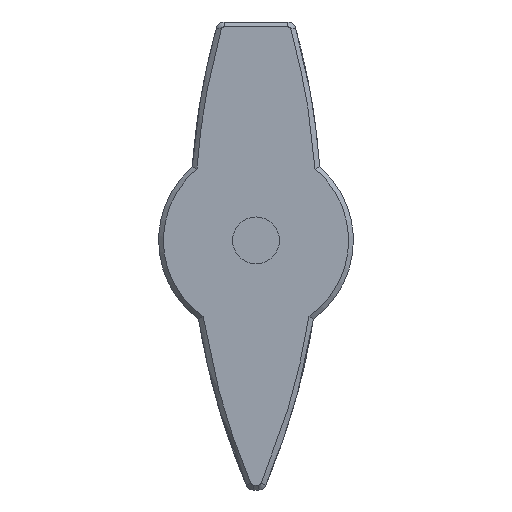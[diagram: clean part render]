
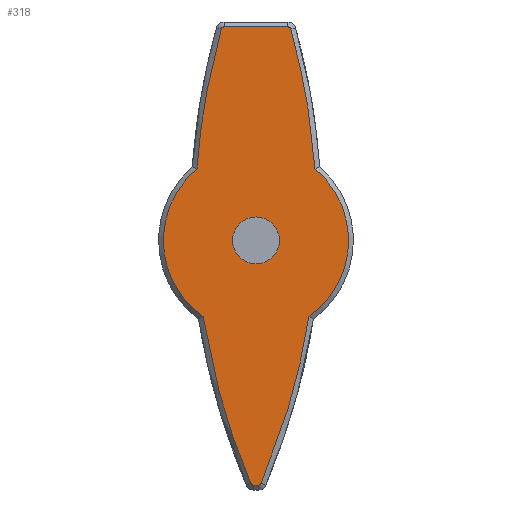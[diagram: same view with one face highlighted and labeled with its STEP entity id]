
A CAD part, front view. The second image highlights one B-rep face of the part: STEP entity #318.
In plain terms, the highlighted planar face has unit normal (0, -1, 0).
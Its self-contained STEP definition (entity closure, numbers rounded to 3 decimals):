
#3 = DIRECTION ( 'NONE',  ( 0., -1., 0. ) ) ;
#63 = DIRECTION ( 'NONE',  ( 0., -1., 0. ) ) ;
#100 = CIRCLE ( 'NONE', #1107, 0.303 ) ;
#119 = CARTESIAN_POINT ( 'NONE',  ( -6.58, 2.327, -1.582 ) ) ;
#155 = AXIS2_PLACEMENT_3D ( 'NONE', #349, #1712, #1438 ) ;
#165 = DIRECTION ( 'NONE',  ( 1., 0., 0. ) ) ;
#214 = EDGE_CURVE ( 'NONE', #276, #944, #1014, .T. ) ;
#229 = CARTESIAN_POINT ( 'NONE',  ( -4.539, 2.327, -13.285 ) ) ;
#244 = DIRECTION ( 'NONE',  ( 0., 0., 1. ) ) ;
#251 = LINE ( 'NONE', #523, #1416 ) ;
#266 = DIRECTION ( 'NONE',  ( 0., 1., 0. ) ) ;
#269 = EDGE_LOOP ( 'NONE', ( #683 ) ) ;
#276 = VERTEX_POINT ( 'NONE', #1733 ) ;
#283 = ORIENTED_EDGE ( 'NONE', *, *, #1122, .T. ) ;
#316 = CARTESIAN_POINT ( 'NONE',  ( 3.57, 2.327, 21.94 ) ) ;
#318 = ADVANCED_FACE ( 'NONE', ( #1541, #705 ), #1247, .F. ) ;
#320 = CIRCLE ( 'NONE', #867, 0.303 ) ;
#324 = DIRECTION ( 'NONE',  ( 0., 0., 1. ) ) ;
#336 = CIRCLE ( 'NONE', #563, 9.5 ) ;
#339 = ORIENTED_EDGE ( 'NONE', *, *, #560, .T. ) ;
#349 = CARTESIAN_POINT ( 'NONE',  ( 0., 2.327, 0.259 ) ) ;
#387 = CARTESIAN_POINT ( 'NONE',  ( -6.58, 2.327, -24.844 ) ) ;
#429 = ORIENTED_EDGE ( 'NONE', *, *, #616, .T. ) ;
#449 = VERTEX_POINT ( 'NONE', #1126 ) ;
#466 = CARTESIAN_POINT ( 'NONE',  ( 0.529, 2.327, -24.658 ) ) ;
#471 = CARTESIAN_POINT ( 'NONE',  ( -0.25, 2.327, -24.541 ) ) ;
#478 = EDGE_CURVE ( 'NONE', #638, #1252, #1756, .T. ) ;
#512 = CARTESIAN_POINT ( 'NONE',  ( -6.058, 2.327, 7.577 ) ) ;
#516 = B_SPLINE_CURVE_WITH_KNOTS ( 'NONE', 3,
 ( #892, #229, #610, #795 ),
 .UNSPECIFIED., .F., .F.,
 ( 4, 4 ),
 ( 0., 1. ),
 .UNSPECIFIED. ) ;
#523 = CARTESIAN_POINT ( 'NONE',  ( -3.277, 2.327, 22.162 ) ) ;
#524 = VERTEX_POINT ( 'NONE', #1282 ) ;
#543 = AXIS2_PLACEMENT_3D ( 'NONE', #835, #3, #559 ) ;
#554 = ORIENTED_EDGE ( 'NONE', *, *, #1526, .T. ) ;
#559 = DIRECTION ( 'NONE',  ( 0., 0., -1. ) ) ;
#560 = EDGE_CURVE ( 'NONE', #1316, #1661, #516, .T. ) ;
#563 = AXIS2_PLACEMENT_3D ( 'NONE', #1182, #651, #1757 ) ;
#591 = CARTESIAN_POINT ( 'NONE',  ( 6.058, 2.327, 7.577 ) ) ;
#610 = CARTESIAN_POINT ( 'NONE',  ( -2.906, 2.327, -18.992 ) ) ;
#616 = EDGE_CURVE ( 'NONE', #1661, #524, #1258, .T. ) ;
#638 = VERTEX_POINT ( 'NONE', #776 ) ;
#651 = DIRECTION ( 'NONE',  ( 0., -1., 0. ) ) ;
#653 = DIRECTION ( 'NONE',  ( 0., -1., 0. ) ) ;
#683 = ORIENTED_EDGE ( 'NONE', *, *, #1112, .F. ) ;
#705 = FACE_BOUND ( 'NONE', #269, .T. ) ;
#714 = EDGE_CURVE ( 'NONE', #524, #1461, #937, .T. ) ;
#720 = VERTEX_POINT ( 'NONE', #1209 ) ;
#721 = CARTESIAN_POINT ( 'NONE',  ( 5.725, 2.327, 12.336 ) ) ;
#728 = DIRECTION ( 'NONE',  ( 0., 0., 1. ) ) ;
#770 = CARTESIAN_POINT ( 'NONE',  ( -4.896, 2.327, 17.123 ) ) ;
#776 = CARTESIAN_POINT ( 'NONE',  ( 6.058, 2.327, 7.577 ) ) ;
#795 = CARTESIAN_POINT ( 'NONE',  ( -0.529, 2.327, -24.658 ) ) ;
#825 = ORIENTED_EDGE ( 'NONE', *, *, #1281, .T. ) ;
#826 = EDGE_CURVE ( 'NONE', #1461, #720, #320, .T. ) ;
#835 = CARTESIAN_POINT ( 'NONE',  ( 0., 2.327, 0.259 ) ) ;
#852 = ORIENTED_EDGE ( 'NONE', *, *, #1736, .T. ) ;
#864 = CIRCLE ( 'NONE', #543, 2.4 ) ;
#867 = AXIS2_PLACEMENT_3D ( 'NONE', #1308, #1279, #728 ) ;
#892 = CARTESIAN_POINT ( 'NONE',  ( -5.428, 2.327, -7.537 ) ) ;
#937 = LINE ( 'NONE', #387, #1199 ) ;
#944 = VERTEX_POINT ( 'NONE', #1215 ) ;
#949 = AXIS2_PLACEMENT_3D ( 'NONE', #119, #266, #1230 ) ;
#970 = VERTEX_POINT ( 'NONE', #1177 ) ;
#977 = ORIENTED_EDGE ( 'NONE', *, *, #1330, .T. ) ;
#983 = EDGE_LOOP ( 'NONE', ( #852, #1735, #554, #339, #429, #1137, #1621, #283, #825, #1518, #977, #1442 ) ) ;
#1009 = CARTESIAN_POINT ( 'NONE',  ( 5.428, 2.327, -7.537 ) ) ;
#1011 = EDGE_CURVE ( 'NONE', #1328, #1225, #251, .T. ) ;
#1014 = B_SPLINE_CURVE_WITH_KNOTS ( 'NONE', 3,
 ( #1768, #770, #1061, #512 ),
 .UNSPECIFIED., .F., .F.,
 ( 4, 4 ),
 ( 0., 1. ),
 .UNSPECIFIED. ) ;
#1019 = CARTESIAN_POINT ( 'NONE',  ( 4.539, 2.327, -13.285 ) ) ;
#1061 = CARTESIAN_POINT ( 'NONE',  ( -5.726, 2.327, 12.336 ) ) ;
#1074 = CIRCLE ( 'NONE', #1539, 0.303 ) ;
#1078 = DIRECTION ( 'NONE',  ( -1., 0., 0. ) ) ;
#1107 = AXIS2_PLACEMENT_3D ( 'NONE', #1634, #653, #1195 ) ;
#1112 = EDGE_CURVE ( 'NONE', #449, #449, #864, .T. ) ;
#1122 = EDGE_CURVE ( 'NONE', #720, #970, #1454, .T. ) ;
#1126 = CARTESIAN_POINT ( 'NONE',  ( 0., 2.327, -2.141 ) ) ;
#1137 = ORIENTED_EDGE ( 'NONE', *, *, #714, .T. ) ;
#1138 = CARTESIAN_POINT ( 'NONE',  ( 4.896, 2.327, 17.123 ) ) ;
#1177 = CARTESIAN_POINT ( 'NONE',  ( 5.428, 2.327, -7.537 ) ) ;
#1182 = CARTESIAN_POINT ( 'NONE',  ( 0., 2.327, 0.259 ) ) ;
#1185 = CARTESIAN_POINT ( 'NONE',  ( 3.277, 2.327, 22.162 ) ) ;
#1195 = DIRECTION ( 'NONE',  ( 0., 0., 1. ) ) ;
#1199 = VECTOR ( 'NONE', #165, 1000. ) ;
#1209 = CARTESIAN_POINT ( 'NONE',  ( 0.529, 2.327, -24.658 ) ) ;
#1215 = CARTESIAN_POINT ( 'NONE',  ( -6.058, 2.327, 7.577 ) ) ;
#1225 = VERTEX_POINT ( 'NONE', #1409 ) ;
#1230 = DIRECTION ( 'NONE',  ( 0., 0., 1. ) ) ;
#1247 = PLANE ( 'NONE',  #949 ) ;
#1252 = VERTEX_POINT ( 'NONE', #316 ) ;
#1258 = CIRCLE ( 'NONE', #1763, 0.303 ) ;
#1279 = DIRECTION ( 'NONE',  ( 0., -1., 0. ) ) ;
#1281 = EDGE_CURVE ( 'NONE', #970, #638, #1337, .T. ) ;
#1282 = CARTESIAN_POINT ( 'NONE',  ( -0.25, 2.327, -24.844 ) ) ;
#1308 = CARTESIAN_POINT ( 'NONE',  ( 0.25, 2.327, -24.541 ) ) ;
#1316 = VERTEX_POINT ( 'NONE', #1465 ) ;
#1328 = VERTEX_POINT ( 'NONE', #1185 ) ;
#1330 = EDGE_CURVE ( 'NONE', #1252, #1328, #100, .T. ) ;
#1337 = CIRCLE ( 'NONE', #155, 9.5 ) ;
#1387 = CARTESIAN_POINT ( 'NONE',  ( -0.529, 2.327, -24.658 ) ) ;
#1409 = CARTESIAN_POINT ( 'NONE',  ( -3.277, 2.327, 22.162 ) ) ;
#1416 = VECTOR ( 'NONE', #1078, 1000. ) ;
#1438 = DIRECTION ( 'NONE',  ( 0., 0., 1. ) ) ;
#1442 = ORIENTED_EDGE ( 'NONE', *, *, #1011, .T. ) ;
#1454 = B_SPLINE_CURVE_WITH_KNOTS ( 'NONE', 3,
 ( #466, #1693, #1019, #1009 ),
 .UNSPECIFIED., .F., .F.,
 ( 4, 4 ),
 ( 0., 1. ),
 .UNSPECIFIED. ) ;
#1461 = VERTEX_POINT ( 'NONE', #1566 ) ;
#1465 = CARTESIAN_POINT ( 'NONE',  ( -5.428, 2.327, -7.537 ) ) ;
#1518 = ORIENTED_EDGE ( 'NONE', *, *, #478, .T. ) ;
#1526 = EDGE_CURVE ( 'NONE', #944, #1316, #336, .T. ) ;
#1539 = AXIS2_PLACEMENT_3D ( 'NONE', #1557, #1710, #324 ) ;
#1541 = FACE_OUTER_BOUND ( 'NONE', #983, .T. ) ;
#1557 = CARTESIAN_POINT ( 'NONE',  ( -3.277, 2.327, 21.859 ) ) ;
#1566 = CARTESIAN_POINT ( 'NONE',  ( 0.25, 2.327, -24.844 ) ) ;
#1621 = ORIENTED_EDGE ( 'NONE', *, *, #826, .T. ) ;
#1634 = CARTESIAN_POINT ( 'NONE',  ( 3.277, 2.327, 21.859 ) ) ;
#1661 = VERTEX_POINT ( 'NONE', #1387 ) ;
#1693 = CARTESIAN_POINT ( 'NONE',  ( 2.906, 2.327, -18.992 ) ) ;
#1697 = CARTESIAN_POINT ( 'NONE',  ( 3.57, 2.327, 21.94 ) ) ;
#1710 = DIRECTION ( 'NONE',  ( 0., -1., 0. ) ) ;
#1712 = DIRECTION ( 'NONE',  ( 0., -1., 0. ) ) ;
#1733 = CARTESIAN_POINT ( 'NONE',  ( -3.57, 2.327, 21.94 ) ) ;
#1735 = ORIENTED_EDGE ( 'NONE', *, *, #214, .T. ) ;
#1736 = EDGE_CURVE ( 'NONE', #1225, #276, #1074, .T. ) ;
#1756 = B_SPLINE_CURVE_WITH_KNOTS ( 'NONE', 3,
 ( #591, #721, #1138, #1697 ),
 .UNSPECIFIED., .F., .F.,
 ( 4, 4 ),
 ( 0., 1. ),
 .UNSPECIFIED. ) ;
#1757 = DIRECTION ( 'NONE',  ( 0., 0., 1. ) ) ;
#1763 = AXIS2_PLACEMENT_3D ( 'NONE', #471, #63, #244 ) ;
#1768 = CARTESIAN_POINT ( 'NONE',  ( -3.57, 2.327, 21.94 ) ) ;
